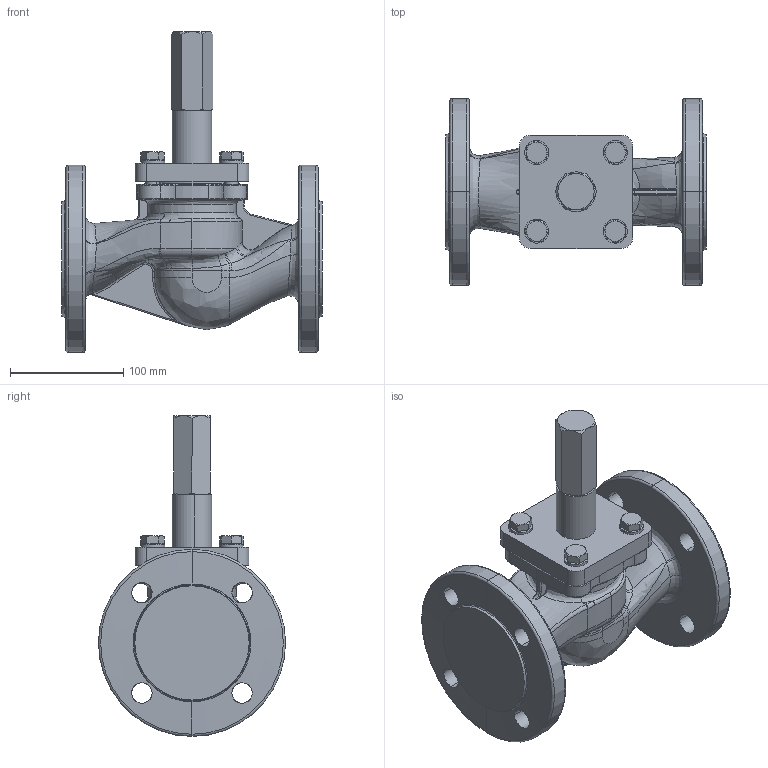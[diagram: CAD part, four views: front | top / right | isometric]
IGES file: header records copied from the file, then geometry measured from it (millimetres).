
Global section: file name: No Iges File Name specified; native system: AutoDesk Inventor R12.0; preprocessor: AutoDesk Inventor Iges Exporter R12.0; date: 20110630.093443; units: millimetre
Bounding box: 230 x 165 x 283 mm (x, y, z)
Volume: 2026167.3 mm3; surface area: 209687.4 mm2
Topology: 1 solids, 1 shells, 425 faces, 1037 edges, 624 vertices
Faces by surface type: bspline 178, plane 95, cylinder 57, cone 44, revolution 29, torus 22
